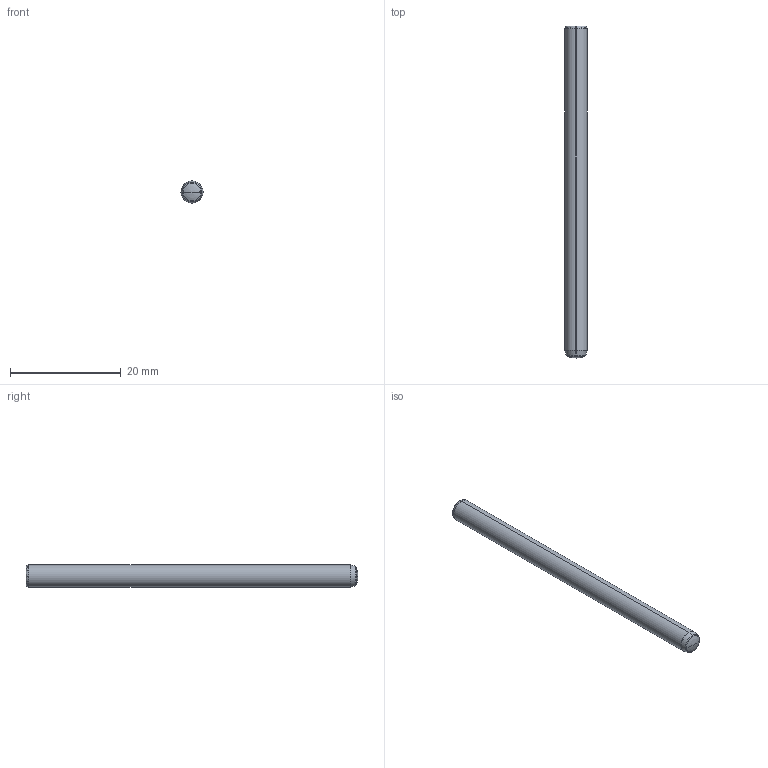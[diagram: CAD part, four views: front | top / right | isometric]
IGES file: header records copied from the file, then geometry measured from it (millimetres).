
Start section: SolidWorks IGES file using analytic representation for surfaces
Global section: file name: D:\Cleonir_arquivos\MT_15_07\Pinos Guia DIN 7979 ISO 8735 com rosca\PG704060.igs; native system: SolidWorks 2013; preprocessor: SolidWorks 2013; author: Cleonir; date: 130730.170827; units: millimetre
Bounding box: 4 x 60 x 4 mm (x, y, z)
Surface area: 815.4 mm2 (no closed solid volume)
Topology: 0 solids, 0 shells, 291 faces, 2151 edges, 2147 vertices
Faces by surface type: bspline 269, revolution 22
